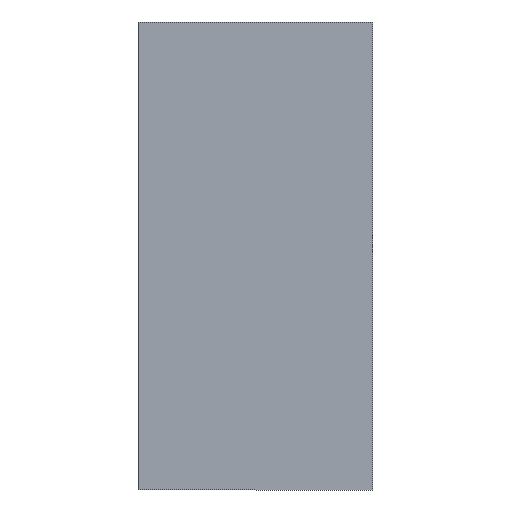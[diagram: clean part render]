
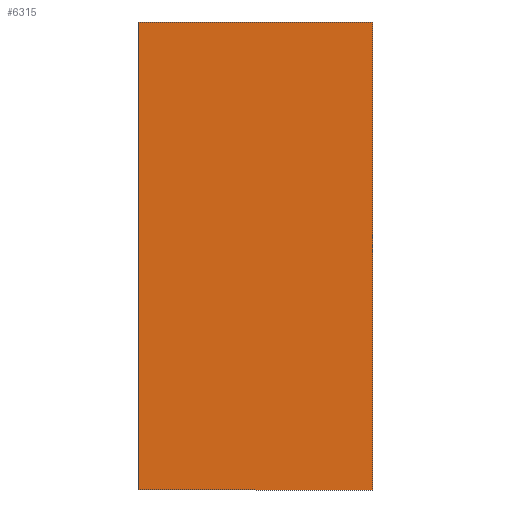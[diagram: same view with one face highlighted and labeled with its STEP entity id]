
A CAD part, front view. The second image highlights one B-rep face of the part: STEP entity #6315.
In plain terms, the highlighted planar face has unit normal (0, -1, 0).
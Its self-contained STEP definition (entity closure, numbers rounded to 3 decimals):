
#795 = LINE ( 'NONE', #10867, #16637 ) ;
#1222 = ORIENTED_EDGE ( 'NONE', *, *, #15859, .F. ) ;
#2127 = ORIENTED_EDGE ( 'NONE', *, *, #18286, .F. ) ;
#2551 = VERTEX_POINT ( 'NONE', #14509 ) ;
#2681 = DIRECTION ( 'NONE',  ( 1., 0., 0. ) ) ;
#2801 = EDGE_CURVE ( 'NONE', #2551, #15376, #795, .T. ) ;
#3424 = FACE_OUTER_BOUND ( 'NONE', #9213, .T. ) ;
#3710 = DIRECTION ( 'NONE',  ( 0., 0., -1. ) ) ;
#5304 = EDGE_CURVE ( 'NONE', #15376, #15796, #18288, .T. ) ;
#5839 = CARTESIAN_POINT ( 'NONE',  ( -914.4, 0., 457.2 ) ) ;
#5959 = VECTOR ( 'NONE', #2681, 1000. ) ;
#6315 = ADVANCED_FACE ( 'NONE', ( #3424 ), #13451, .T. ) ;
#6539 = DIRECTION ( 'NONE',  ( -1., 0., 0. ) ) ;
#8420 = DIRECTION ( 'NONE',  ( 0., 0., 1. ) ) ;
#8674 = AXIS2_PLACEMENT_3D ( 'NONE', #12163, #10849, #3710 ) ;
#8780 = CARTESIAN_POINT ( 'NONE',  ( 914.4, 0., 457.2 ) ) ;
#9213 = EDGE_LOOP ( 'NONE', ( #2127, #1222, #12959, #16496 ) ) ;
#10371 = CARTESIAN_POINT ( 'NONE',  ( -914.4, 0., 457.2 ) ) ;
#10849 = DIRECTION ( 'NONE',  ( 0., -1., 0. ) ) ;
#10867 = CARTESIAN_POINT ( 'NONE',  ( -914.4, 0., -457.2 ) ) ;
#12086 = VERTEX_POINT ( 'NONE', #16816 ) ;
#12163 = CARTESIAN_POINT ( 'NONE',  ( 0., 0., 0. ) ) ;
#12340 = CARTESIAN_POINT ( 'NONE',  ( -914.4, 0., -457.2 ) ) ;
#12465 = VECTOR ( 'NONE', #14475, 1000. ) ;
#12959 = ORIENTED_EDGE ( 'NONE', *, *, #5304, .F. ) ;
#13451 = PLANE ( 'NONE',  #8674 ) ;
#14475 = DIRECTION ( 'NONE',  ( 0., 0., -1. ) ) ;
#14509 = CARTESIAN_POINT ( 'NONE',  ( 914.4, 0., -457.2 ) ) ;
#15376 = VERTEX_POINT ( 'NONE', #12340 ) ;
#15520 = CARTESIAN_POINT ( 'NONE',  ( -914.4, 0., 457.2 ) ) ;
#15796 = VERTEX_POINT ( 'NONE', #10371 ) ;
#15859 = EDGE_CURVE ( 'NONE', #15796, #12086, #18254, .T. ) ;
#15863 = LINE ( 'NONE', #8780, #12465 ) ;
#16496 = ORIENTED_EDGE ( 'NONE', *, *, #2801, .F. ) ;
#16637 = VECTOR ( 'NONE', #6539, 1000. ) ;
#16816 = CARTESIAN_POINT ( 'NONE',  ( 914.4, 0., 457.2 ) ) ;
#17558 = VECTOR ( 'NONE', #8420, 1000. ) ;
#18254 = LINE ( 'NONE', #5839, #5959 ) ;
#18286 = EDGE_CURVE ( 'NONE', #12086, #2551, #15863, .T. ) ;
#18288 = LINE ( 'NONE', #15520, #17558 ) ;
